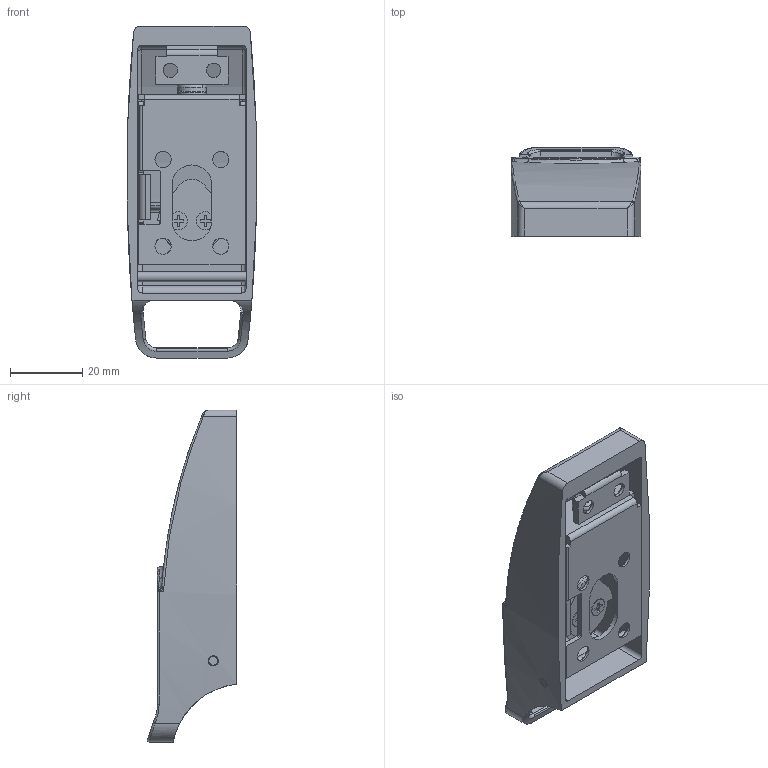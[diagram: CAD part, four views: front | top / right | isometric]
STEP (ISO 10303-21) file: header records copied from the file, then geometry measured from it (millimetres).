
FILE_DESCRIPTION(('STEP AP203'),'1');
FILE_NAME('C:/TPO v2/SharedFS/Outgoing/16-1-9005.stp','2014-06-27T11:31:19',('TraceParts'),('TraceParts S.A.'),'XStep 1.0',' ',' ');
FILE_SCHEMA(('CONFIG_CONTROL_DESIGN'));
Length unit declared in the file: millimetre
Products named in the file (8): 1; 2; 3; 4; 5; 6; 7; 8
Bounding box: 36 x 24.82 x 92 mm (x, y, z)
Volume: 23285.5 mm3; surface area: 22279.4 mm2
Topology: 8 solids, 8 shells, 356 faces, 933 edges, 585 vertices
Faces by surface type: plane 129, cylinder 123, bspline 39, cone 34, torus 25, sphere 6
Full cylindrical faces by diameter (mm): 15 x1, 18 x1
Entity records: 14706 total; most frequent: CARTESIAN_POINT 5548, DIRECTION 1889, ORIENTED_EDGE 1836, EDGE_CURVE 918, AXIS2_PLACEMENT_3D 720, VERTEX_POINT 584, LINE 449, VECTOR 449
